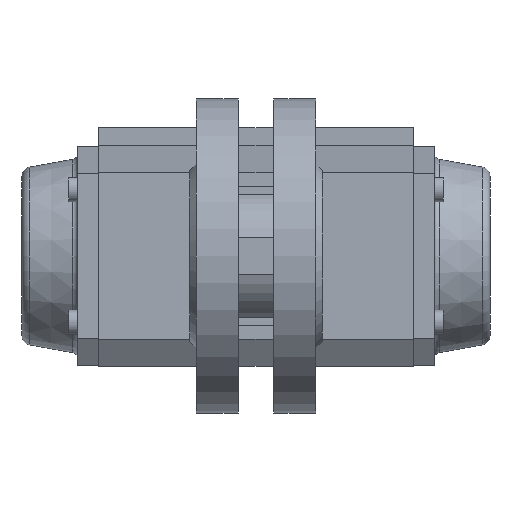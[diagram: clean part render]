
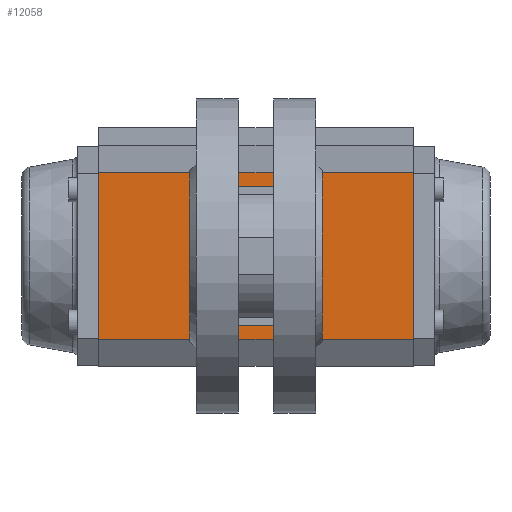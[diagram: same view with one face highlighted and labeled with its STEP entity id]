
A CAD part, front view. The second image highlights one B-rep face of the part: STEP entity #12058.
In plain terms, the highlighted planar face has unit normal (0, -1, 0).
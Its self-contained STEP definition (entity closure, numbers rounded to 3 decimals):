
#514 = CARTESIAN_POINT ( 'NONE',  ( 14.849, -41.5, 14.849 ) ) ;
#515 = DIRECTION ( 'NONE',  ( 0., -1., 0. ) ) ;
#516 = DIRECTION ( 'NONE',  ( 0., 0., -1. ) ) ;
#609 = CARTESIAN_POINT ( 'NONE',  ( 0., -41.5, 0. ) ) ;
#610 = DIRECTION ( 'NONE',  ( 0., -1., 0. ) ) ;
#611 = DIRECTION ( 'NONE',  ( 0., 0., -1. ) ) ;
#625 = CARTESIAN_POINT ( 'NONE',  ( 0., -41.5, 0. ) ) ;
#626 = DIRECTION ( 'NONE',  ( 0., -1., 0. ) ) ;
#627 = DIRECTION ( 'NONE',  ( 0., 0., -1. ) ) ;
#686 = CARTESIAN_POINT ( 'NONE',  ( 14.849, -41.5, 14.849 ) ) ;
#687 = DIRECTION ( 'NONE',  ( 0., -1., 0. ) ) ;
#688 = DIRECTION ( 'NONE',  ( 0., 0., -1. ) ) ;
#954 = CARTESIAN_POINT ( 'NONE',  ( -14.849, -41.5, 14.849 ) ) ;
#955 = DIRECTION ( 'NONE',  ( 0., -1., 0. ) ) ;
#956 = DIRECTION ( 'NONE',  ( 0., 0., -1. ) ) ;
#959 = LINE ( 'NONE', #966, #10889 ) ;
#961 = CARTESIAN_POINT ( 'NONE',  ( 14.849, -41.5, -14.849 ) ) ;
#962 = DIRECTION ( 'NONE',  ( 0., -1., 0. ) ) ;
#963 = DIRECTION ( 'NONE',  ( 0., 0., -1. ) ) ;
#964 = CARTESIAN_POINT ( 'NONE',  ( -27.5, -41.5, -52. ) ) ;
#966 = CARTESIAN_POINT ( 'NONE',  ( -27.5, -41.5, 52. ) ) ;
#967 = DIRECTION ( 'NONE',  ( 1., 0., 0. ) ) ;
#969 = LINE ( 'NONE', #964, #10887 ) ;
#970 = CARTESIAN_POINT ( 'NONE',  ( -14.849, -41.5, 14.849 ) ) ;
#971 = DIRECTION ( 'NONE',  ( 0., -1., 0. ) ) ;
#972 = DIRECTION ( 'NONE',  ( 0., 0., -1. ) ) ;
#973 = DIRECTION ( 'NONE',  ( 0., 0., 1. ) ) ;
#977 = CARTESIAN_POINT ( 'NONE',  ( -27.5, -41.5, -52. ) ) ;
#981 = LINE ( 'NONE', #977, #10880 ) ;
#982 = CARTESIAN_POINT ( 'NONE',  ( -14.849, -41.5, -14.849 ) ) ;
#983 = DIRECTION ( 'NONE',  ( 0., -1., 0. ) ) ;
#984 = DIRECTION ( 'NONE',  ( 0., 0., -1. ) ) ;
#985 = DIRECTION ( 'NONE',  ( 1., 0., 0. ) ) ;
#1167 = LINE ( 'NONE', #1168, #10794 ) ;
#1168 = CARTESIAN_POINT ( 'NONE',  ( 27.5, -41.5, -52. ) ) ;
#1169 = DIRECTION ( 'NONE',  ( 0., 0., 1. ) ) ;
#1375 = CARTESIAN_POINT ( 'NONE',  ( 14.849, -41.5, -14.849 ) ) ;
#1376 = DIRECTION ( 'NONE',  ( 0., -1., 0. ) ) ;
#1377 = DIRECTION ( 'NONE',  ( 0., 0., -1. ) ) ;
#1393 = CARTESIAN_POINT ( 'NONE',  ( -14.849, -41.5, -14.849 ) ) ;
#1394 = DIRECTION ( 'NONE',  ( 0., -1., 0. ) ) ;
#1395 = DIRECTION ( 'NONE',  ( 0., 0., -1. ) ) ;
#1781 = FACE_BOUND ( 'NONE', #10701, .T. ) ;
#1787 = FACE_BOUND ( 'NONE', #10690, .T. ) ;
#1788 = FACE_BOUND ( 'NONE', #10692, .T. ) ;
#1789 = FACE_OUTER_BOUND ( 'NONE', #10688, .T. ) ;
#1790 = PLANE ( 'NONE',  #10320 ) ;
#1791 = FACE_BOUND ( 'NONE', #10686, .T. ) ;
#1793 = FACE_BOUND ( 'NONE', #10698, .T. ) ;
#1794 = CARTESIAN_POINT ( 'NONE',  ( -27.5, -41.5, -52. ) ) ;
#1795 = DIRECTION ( 'NONE',  ( 0., -1., 0. ) ) ;
#1796 = DIRECTION ( 'NONE',  ( 0., 0., -1. ) ) ;
#1958 = CARTESIAN_POINT ( 'NONE',  ( 27.5, -41.5, 52. ) ) ;
#1969 = CARTESIAN_POINT ( 'NONE',  ( 14.849, -41.5, -16.949 ) ) ;
#1970 = CARTESIAN_POINT ( 'NONE',  ( 14.849, -41.5, -12.749 ) ) ;
#2034 = CARTESIAN_POINT ( 'NONE',  ( 14.849, -41.5, 16.949 ) ) ;
#2072 = CARTESIAN_POINT ( 'NONE',  ( 27.5, -41.5, -52. ) ) ;
#2080 = CARTESIAN_POINT ( 'NONE',  ( 14.849, -41.5, 12.749 ) ) ;
#2095 = CARTESIAN_POINT ( 'NONE',  ( -27.5, -41.5, -52. ) ) ;
#2193 = CARTESIAN_POINT ( 'NONE',  ( -14.849, -41.5, 12.749 ) ) ;
#2203 = CARTESIAN_POINT ( 'NONE',  ( -14.849, -41.5, 16.949 ) ) ;
#2539 = ORIENTED_EDGE ( 'NONE', *, *, #11740, .T. ) ;
#2540 = ORIENTED_EDGE ( 'NONE', *, *, #11736, .F. ) ;
#2541 = ORIENTED_EDGE ( 'NONE', *, *, #11734, .F. ) ;
#2542 = ORIENTED_EDGE ( 'NONE', *, *, #11801, .T. ) ;
#2543 = ORIENTED_EDGE ( 'NONE', *, *, #11929, .F. ) ;
#2544 = ORIENTED_EDGE ( 'NONE', *, *, #11934, .F. ) ;
#2545 = ORIENTED_EDGE ( 'NONE', *, *, #11730, .F. ) ;
#2546 = ORIENTED_EDGE ( 'NONE', *, *, #11735, .F. ) ;
#2547 = ORIENTED_EDGE ( 'NONE', *, *, #11877, .F. ) ;
#2548 = ORIENTED_EDGE ( 'NONE', *, *, #11739, .F. ) ;
#2549 = ORIENTED_EDGE ( 'NONE', *, *, #11870, .F. ) ;
#2550 = ORIENTED_EDGE ( 'NONE', *, *, #11732, .F. ) ;
#2551 = ORIENTED_EDGE ( 'NONE', *, *, #11897, .F. ) ;
#2552 = ORIENTED_EDGE ( 'NONE', *, *, #11955, .F. ) ;
#3402 = CARTESIAN_POINT ( 'NONE',  ( -14.849, -41.5, -16.949 ) ) ;
#3422 = CARTESIAN_POINT ( 'NONE',  ( 0., -41.5, -15. ) ) ;
#3560 = CARTESIAN_POINT ( 'NONE',  ( -27.5, -41.5, 52. ) ) ;
#3564 = CARTESIAN_POINT ( 'NONE',  ( 0., -41.5, 15. ) ) ;
#3569 = CARTESIAN_POINT ( 'NONE',  ( -14.849, -41.5, -12.749 ) ) ;
#4866 = VERTEX_POINT ( 'NONE', #1958 ) ;
#4877 = VERTEX_POINT ( 'NONE', #1969 ) ;
#4878 = VERTEX_POINT ( 'NONE', #1970 ) ;
#5457 = VERTEX_POINT ( 'NONE', #2034 ) ;
#5495 = VERTEX_POINT ( 'NONE', #2072 ) ;
#5503 = VERTEX_POINT ( 'NONE', #2080 ) ;
#5518 = VERTEX_POINT ( 'NONE', #2095 ) ;
#6577 = VERTEX_POINT ( 'NONE', #2203 ) ;
#6579 = VERTEX_POINT ( 'NONE', #2193 ) ;
#8620 = VERTEX_POINT ( 'NONE', #3402 ) ;
#8631 = VERTEX_POINT ( 'NONE', #3422 ) ;
#8709 = VERTEX_POINT ( 'NONE', #3560 ) ;
#8712 = VERTEX_POINT ( 'NONE', #3564 ) ;
#8715 = VERTEX_POINT ( 'NONE', #3569 ) ;
#10320 = AXIS2_PLACEMENT_3D ( 'NONE', #1794, #1795, #1796 ) ;
#10529 = AXIS2_PLACEMENT_3D ( 'NONE', #686, #687, #688 ) ;
#10531 = CIRCLE ( 'NONE', #10529, 2.1 ) ;
#10556 = AXIS2_PLACEMENT_3D ( 'NONE', #625, #626, #627 ) ;
#10558 = CIRCLE ( 'NONE', #10556, 15. ) ;
#10564 = AXIS2_PLACEMENT_3D ( 'NONE', #609, #610, #611 ) ;
#10566 = CIRCLE ( 'NONE', #10564, 15. ) ;
#10613 = AXIS2_PLACEMENT_3D ( 'NONE', #514, #515, #516 ) ;
#10615 = CIRCLE ( 'NONE', #10613, 2.1 ) ;
#10667 = AXIS2_PLACEMENT_3D ( 'NONE', #1393, #1394, #1395 ) ;
#10676 = CIRCLE ( 'NONE', #10667, 2.1 ) ;
#10686 = EDGE_LOOP ( 'NONE', ( #2548, #2547 ) ) ;
#10688 = EDGE_LOOP ( 'NONE', ( #2542, #2541, #2540, #2539 ) ) ;
#10689 = AXIS2_PLACEMENT_3D ( 'NONE', #1375, #1376, #1377 ) ;
#10690 = EDGE_LOOP ( 'NONE', ( #2544, #2543 ) ) ;
#10692 = EDGE_LOOP ( 'NONE', ( #2552, #2551 ) ) ;
#10698 = EDGE_LOOP ( 'NONE', ( #2546, #2545 ) ) ;
#10701 = EDGE_LOOP ( 'NONE', ( #2550, #2549 ) ) ;
#10702 = CIRCLE ( 'NONE', #10689, 2.1 ) ;
#10794 = VECTOR ( 'NONE', #1169, 1000. ) ;
#10878 = AXIS2_PLACEMENT_3D ( 'NONE', #982, #983, #984 ) ;
#10880 = VECTOR ( 'NONE', #985, 1000. ) ;
#10882 = CIRCLE ( 'NONE', #10878, 2.1 ) ;
#10884 = AXIS2_PLACEMENT_3D ( 'NONE', #970, #971, #972 ) ;
#10886 = CIRCLE ( 'NONE', #10884, 2.1 ) ;
#10887 = VECTOR ( 'NONE', #973, 1000. ) ;
#10888 = AXIS2_PLACEMENT_3D ( 'NONE', #961, #962, #963 ) ;
#10889 = VECTOR ( 'NONE', #967, 1000. ) ;
#10890 = CIRCLE ( 'NONE', #10888, 2.1 ) ;
#10891 = AXIS2_PLACEMENT_3D ( 'NONE', #954, #955, #956 ) ;
#10893 = CIRCLE ( 'NONE', #10891, 2.1 ) ;
#11730 = EDGE_CURVE ( 'NONE', #6577, #6579, #10893, .T. ) ;
#11732 = EDGE_CURVE ( 'NONE', #4877, #4878, #10890, .T. ) ;
#11734 = EDGE_CURVE ( 'NONE', #8709, #4866, #959, .T. ) ;
#11735 = EDGE_CURVE ( 'NONE', #6579, #6577, #10886, .T. ) ;
#11736 = EDGE_CURVE ( 'NONE', #5518, #8709, #969, .T. ) ;
#11739 = EDGE_CURVE ( 'NONE', #8620, #8715, #10882, .T. ) ;
#11740 = EDGE_CURVE ( 'NONE', #5518, #5495, #981, .T. ) ;
#11801 = EDGE_CURVE ( 'NONE', #5495, #4866, #1167, .T. ) ;
#11870 = EDGE_CURVE ( 'NONE', #4878, #4877, #10702, .T. ) ;
#11877 = EDGE_CURVE ( 'NONE', #8715, #8620, #10676, .T. ) ;
#11897 = EDGE_CURVE ( 'NONE', #5457, #5503, #10615, .T. ) ;
#11929 = EDGE_CURVE ( 'NONE', #8712, #8631, #10566, .T. ) ;
#11934 = EDGE_CURVE ( 'NONE', #8631, #8712, #10558, .T. ) ;
#11955 = EDGE_CURVE ( 'NONE', #5503, #5457, #10531, .T. ) ;
#12058 = ADVANCED_FACE ( 'NONE', ( #1788, #1781, #1791, #1793, #1787, #1789 ), #1790, .T. ) ;
